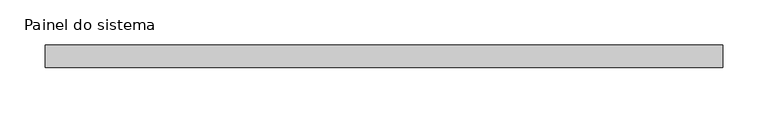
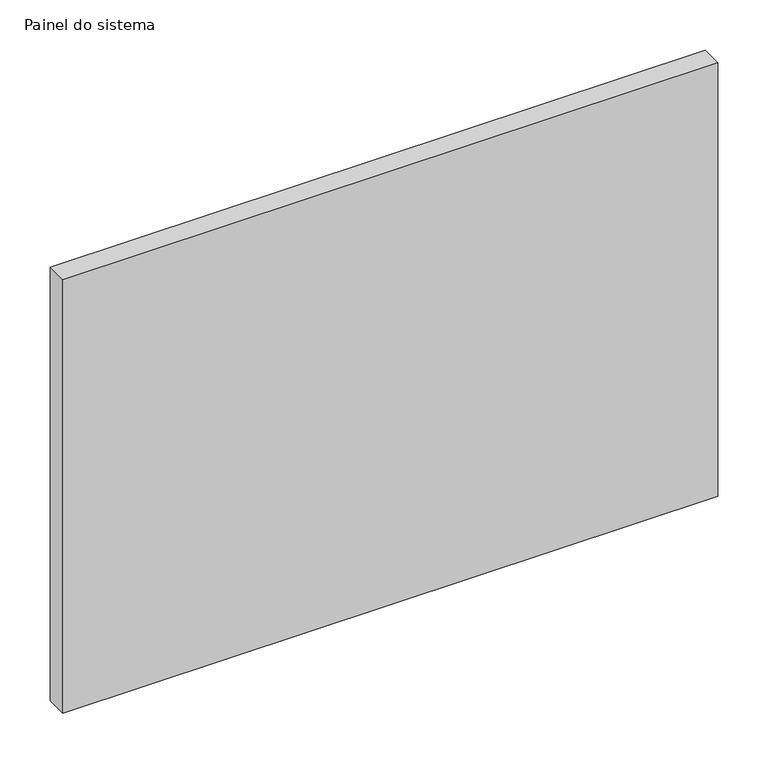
"""IFC4 building model written with IfcOpenShell, lengths in millimetres: plate geometry, Painel do sistema : Envidraçado."""

from ifc_helpers import new_model, si_unit, origin, origin_with_axes, place, context, project, spatial, polyline, outline, extrude, source, transform, mapped, element, save


def painel_do_sistema_62604723(model_context):
    return source(origin(), model_context, "Body", "SweptSolid", [
        extrude(outline(polyline([(375.0, 24.5), (-375.0, 24.5), (-375.0, 49.5), (375.0, 49.5), (375.0, 24.5)])), origin_with_axes(), (0.0, 0.0, 1.0), 525.0),
    ])


if __name__ == "__main__":
    model = new_model("IFC4")
    model_context = context("Model", 3, world=origin())
    ifc_project = project(units=[si_unit("LENGTHUNIT", "METRE", prefix="MILLI")], contexts=[model_context])
    site = spatial("IfcSite", under=ifc_project)
    building = spatial("IfcBuilding", under=site)
    placement = place(None, origin())
    painel_do_sistema_shape = painel_do_sistema_62604723(model_context)
    element("IfcPlate", 1, ObjectType="Painel do sistema : Envidraçado", at=placement, inside=building, context=model_context, shape_type="MappedRepresentation", body=[
        mapped(painel_do_sistema_shape, transform((0.0, 0.0, 0.0), x_axis=(1.0, 0.0, 0.0), y_axis=(0.0, 1.0, 0.0), z_axis=(0.0, 0.0, 1.0))),
    ])
    save(model, "model.ifc")
